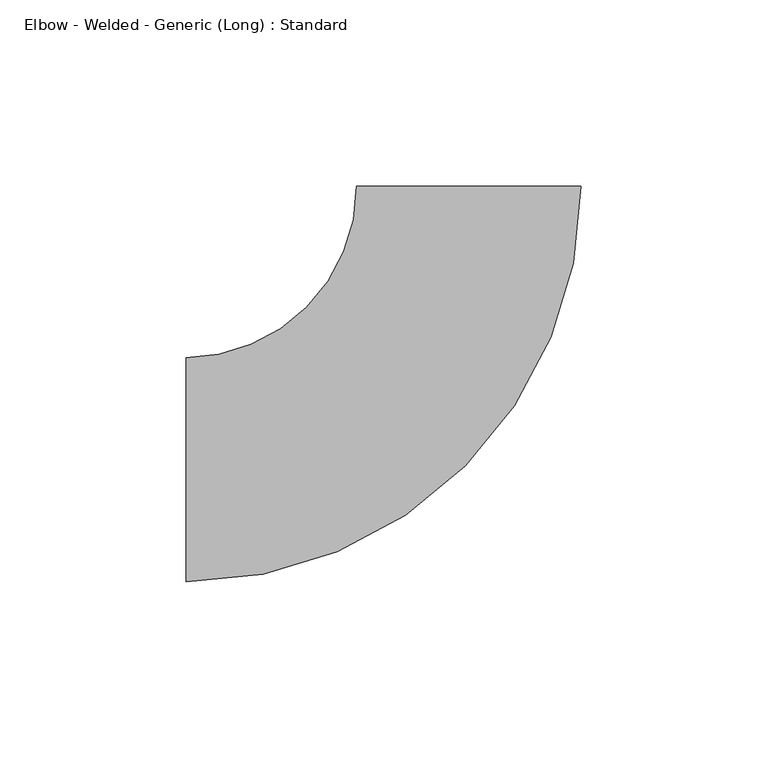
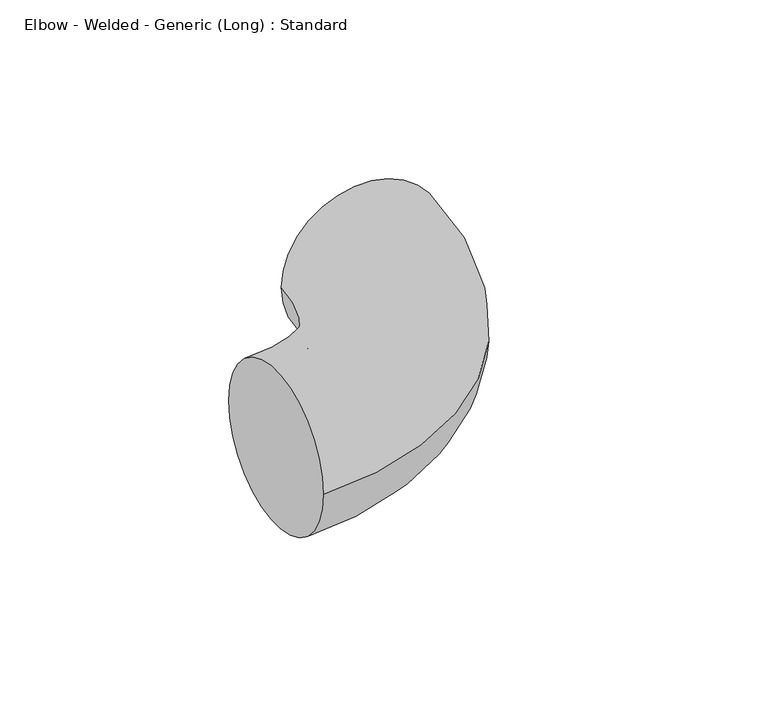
"""IFC4 building model written with IfcOpenShell, lengths in millimetres: pipe fitting geometry, Elbow - Welded - Generic (Long) : Standard."""

from ifc_helpers import new_model, si_unit, point, frame, origin, place, context, project, spatial, circle_curve, ellipse_curve, trimmed, source, transform, mapped, element, save
from ifc_brep_helpers import plane_surface, revolved_surface, advanced_brep


def elbow_welded_generic_long_standard_2a5d0edc(model_context):
    return source(origin(), model_context, "Body", "AdvancedBrep", [
        advanced_brep(
        [(-76.2, -30.1625, 0.0), (-76.2, 30.1625, 0.0), (30.0265041, 76.2536914, 0.0), (-30.2983999, 76.146066, 0.0)],
        [
            (0, 1, circle_curve(frame((-76.2, 0.0, 0.0), z_axis=(-1.0, 0.0, 0.0), x_axis=(0.0, 1.0, 0.0)), 30.1625)),
            (1, 0, circle_curve(frame((-76.2, 0.0, 0.0), z_axis=(-1.0, 0.0, 0.0), x_axis=(0.0, 1.0, 0.0)), 30.1625)),
            (2, 3, circle_curve(frame((-0.1359479, 76.1998787, 0.0), z_axis=(-0.0017840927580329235, 0.9999984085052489, 0.0), x_axis=(-0.9999984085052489, -0.0017840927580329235, 0.0)), 30.1625)),
            (3, 2, circle_curve(frame((-0.1359479, 76.1998787, 0.0), z_axis=(-0.0017840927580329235, 0.9999984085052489, 0.0), x_axis=(-0.9999984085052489, -0.0017840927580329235, 0.0)), 30.1625)),
            (3, 1, circle_curve(frame((-76.2, 76.0641732, 0.0), z_axis=(0.0, 0.0, -1.0), x_axis=(0.0, -1.0, 0.0)), 45.9016732)),
            (0, 2, circle_curve(frame((-76.2, 76.0641732, 0.0), z_axis=(0.0, 0.0, 1.0), x_axis=(0.0, -1.0, 0.0)), 106.2266732)),
        ],
        [
            plane_surface(frame((-76.2, 0.0, 0.0), z_axis=(-1.0, 0.0, 0.0), x_axis=(0.0, 0.0, 1.0))),
            plane_surface(frame((-0.1359479, 76.1998787, 0.0), z_axis=(-0.0017840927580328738, 0.999998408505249, 0.0), x_axis=(0.0, 0.0, 1.0))),
            revolved_surface(trimmed(ellipse_curve(frame((-76.2, 0.0, 0.0), z_axis=(-1.0, 0.0, 0.0), x_axis=(0.0, 1.0, 0.0)), 30.1625, 30.1625), [point((-76.2, -30.1625, 0.0))], [point((-76.2, 30.1625, 0.0))], True, "CARTESIAN"), (-76.2, 76.0641732, 0.0), (0.0, 0.0, 1.0)),
            revolved_surface(trimmed(ellipse_curve(frame((-76.2, 0.0, 0.0), z_axis=(-1.0, 0.0, 0.0), x_axis=(0.0, 1.0, 0.0)), 30.1625, 30.1625), [point((-76.2, 30.1625, 0.0))], [point((-76.2, -30.1625, 0.0))], True, "CARTESIAN"), (-76.2, 76.0641732, 0.0), (0.0, 0.0, 1.0)),
        ],
        [
            (0, [[1, 2]]),
            (1, [[3, 4]]),
            (2, [[5, -1, 6, -4]]),
            (3, [[-6, -2, -5, -3]]),
        ],
    ),
    ])


if __name__ == "__main__":
    model = new_model("IFC4")
    model_context = context("Model", 3, world=origin())
    ifc_project = project(units=[si_unit("LENGTHUNIT", "METRE", prefix="MILLI")], contexts=[model_context])
    site = spatial("IfcSite", under=ifc_project)
    building = spatial("IfcBuilding", under=site)
    placement = place(None, origin())
    elbow_welded_generic_long_standard_shape = elbow_welded_generic_long_standard_2a5d0edc(model_context)
    element("IfcPipeFitting", 1, ObjectType="Elbow - Welded - Generic (Long) : Standard", at=placement, inside=building, context=model_context, shape_type="MappedRepresentation", body=[
        mapped(elbow_welded_generic_long_standard_shape, transform((0.0, 0.0, 0.0), x_axis=(1.0, 0.0, 0.0), y_axis=(0.0, 1.0, 0.0), z_axis=(0.0, 0.0, 1.0))),
    ])
    save(model, "model.ifc")
